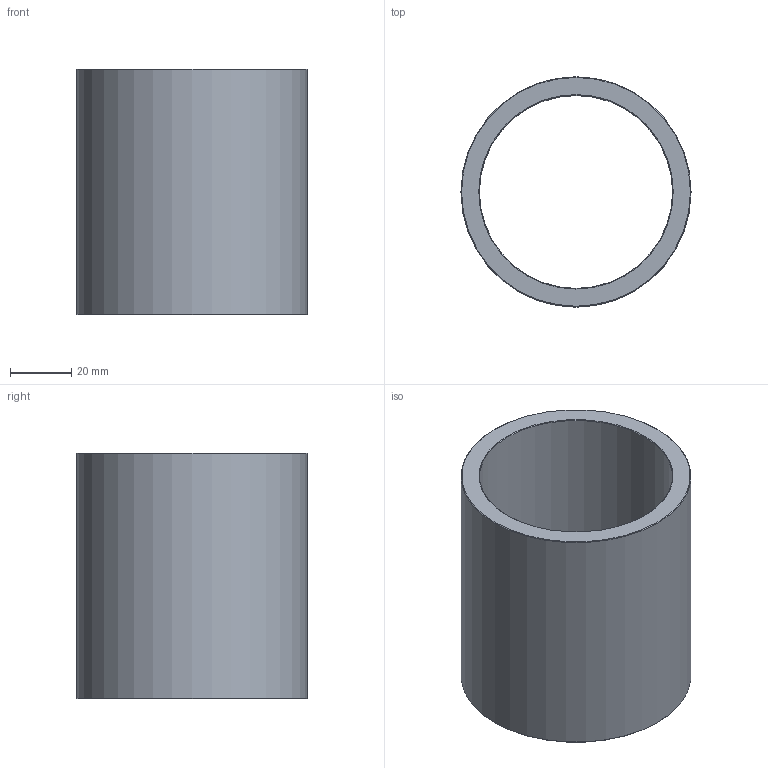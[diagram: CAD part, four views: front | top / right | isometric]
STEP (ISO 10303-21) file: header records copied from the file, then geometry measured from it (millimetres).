
FILE_DESCRIPTION(('STEP AP203'),'1');
FILE_NAME('C:/Users/Rodrigo/Desktop/GA6.063.080-1.step','2016-11-08T14:34:35',(' '),(' '),'Spatial InterOp 3D',' ',' ');
FILE_SCHEMA(('CONFIG_CONTROL_DESIGN'));
Length unit declared in the file: millimetre
Products named in the file (1): 1
Bounding box: 75 x 75 x 80 mm (x, y, z)
Volume: 104032.2 mm3; surface area: 37182.8 mm2
Topology: 1 solids, 1 shells, 8 faces, 14 edges, 8 vertices
Faces by surface type: cone 4, cylinder 2, plane 2
Full cylindrical faces by diameter (mm): 63 x1, 75 x1
Entity records: 212 total; most frequent: DIRECTION 34, CARTESIAN_POINT 25, AXIS2_PLACEMENT_3D 17, EDGE_LOOP 16, ORIENTED_EDGE 16, FACE_OUTER_BOUND 10, ADVANCED_FACE 8, EDGE_CURVE 8
